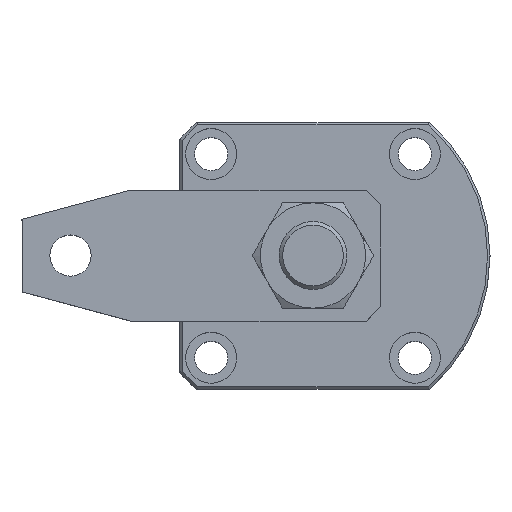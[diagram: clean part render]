
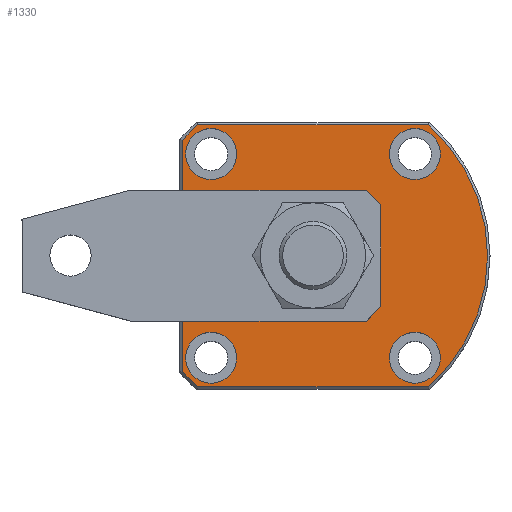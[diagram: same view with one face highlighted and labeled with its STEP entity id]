
A CAD part, top view. The second image highlights one B-rep face of the part: STEP entity #1330.
In plain terms, the highlighted planar face has unit normal (0, 0, 1).
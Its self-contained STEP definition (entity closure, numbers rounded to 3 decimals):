
#75=LINE('',#2429,#123);
#76=LINE('',#2433,#124);
#77=LINE('',#2437,#125);
#123=VECTOR('',#2004,1000.);
#124=VECTOR('',#2007,1000.);
#125=VECTOR('',#2010,1000.);
#199=PLANE('',#1794);
#257=ORIENTED_EDGE('',*,*,#588,.T.);
#258=ORIENTED_EDGE('',*,*,#589,.T.);
#259=ORIENTED_EDGE('',*,*,#590,.T.);
#260=ORIENTED_EDGE('',*,*,#591,.T.);
#261=ORIENTED_EDGE('',*,*,#592,.T.);
#262=ORIENTED_EDGE('',*,*,#593,.T.);
#263=ORIENTED_EDGE('',*,*,#594,.T.);
#264=ORIENTED_EDGE('',*,*,#595,.F.);
#265=ORIENTED_EDGE('',*,*,#596,.F.);
#266=ORIENTED_EDGE('',*,*,#597,.F.);
#267=ORIENTED_EDGE('',*,*,#598,.F.);
#588=EDGE_CURVE('',#756,#756,#880,.T.);
#589=EDGE_CURVE('',#757,#758,#881,.T.);
#590=EDGE_CURVE('',#758,#759,#75,.T.);
#591=EDGE_CURVE('',#759,#760,#882,.T.);
#592=EDGE_CURVE('',#760,#761,#76,.T.);
#593=EDGE_CURVE('',#761,#762,#883,.T.);
#594=EDGE_CURVE('',#762,#757,#77,.T.);
#595=EDGE_CURVE('',#763,#763,#884,.T.);
#596=EDGE_CURVE('',#764,#764,#885,.T.);
#597=EDGE_CURVE('',#765,#765,#886,.T.);
#598=EDGE_CURVE('',#766,#766,#887,.T.);
#756=VERTEX_POINT('',#2424);
#757=VERTEX_POINT('',#2427);
#758=VERTEX_POINT('',#2428);
#759=VERTEX_POINT('',#2430);
#760=VERTEX_POINT('',#2432);
#761=VERTEX_POINT('',#2434);
#762=VERTEX_POINT('',#2436);
#763=VERTEX_POINT('',#2439);
#764=VERTEX_POINT('',#2441);
#765=VERTEX_POINT('',#2443);
#766=VERTEX_POINT('',#2445);
#880=CIRCLE('',#1793,9.);
#881=CIRCLE('',#1795,36.);
#882=CIRCLE('',#1796,36.);
#883=CIRCLE('',#1797,36.);
#884=CIRCLE('',#1798,5.25);
#885=CIRCLE('',#1799,5.25);
#886=CIRCLE('',#1800,5.25);
#887=CIRCLE('',#1801,5.25);
#969=EDGE_LOOP('',(#257));
#970=EDGE_LOOP('',(#258,#259,#260,#261,#262,#263));
#971=EDGE_LOOP('',(#264));
#972=EDGE_LOOP('',(#265));
#973=EDGE_LOOP('',(#266));
#974=EDGE_LOOP('',(#267));
#1139=FACE_BOUND('',#969,.T.);
#1140=FACE_BOUND('',#970,.T.);
#1141=FACE_BOUND('',#971,.T.);
#1142=FACE_BOUND('',#972,.T.);
#1143=FACE_BOUND('',#973,.T.);
#1144=FACE_BOUND('',#974,.T.);
#1330=ADVANCED_FACE('',(#1139,#1140,#1141,#1142,#1143,#1144),#199,.T.);
#1793=AXIS2_PLACEMENT_3D('',#2423,#1998,#1999);
#1794=AXIS2_PLACEMENT_3D('',#2425,#2000,#2001);
#1795=AXIS2_PLACEMENT_3D('',#2426,#2002,#2003);
#1796=AXIS2_PLACEMENT_3D('',#2431,#2005,#2006);
#1797=AXIS2_PLACEMENT_3D('',#2435,#2008,#2009);
#1798=AXIS2_PLACEMENT_3D('',#2438,#2011,#2012);
#1799=AXIS2_PLACEMENT_3D('',#2440,#2013,#2014);
#1800=AXIS2_PLACEMENT_3D('',#2442,#2015,#2016);
#1801=AXIS2_PLACEMENT_3D('',#2444,#2017,#2018);
#1998=DIRECTION('',(0.,0.,-1.));
#1999=DIRECTION('',(0.,-1.,0.));
#2000=DIRECTION('',(0.,0.,1.));
#2001=DIRECTION('',(0.,-1.,0.));
#2002=DIRECTION('',(0.,0.,1.));
#2003=DIRECTION('',(0.,-1.,0.));
#2004=DIRECTION('',(-1.,0.,0.));
#2005=DIRECTION('',(0.,0.,1.));
#2006=DIRECTION('',(0.,-1.,0.));
#2007=DIRECTION('',(0.,-1.,0.));
#2008=DIRECTION('',(0.,0.,1.));
#2009=DIRECTION('',(0.,-1.,0.));
#2010=DIRECTION('',(1.,0.,0.));
#2011=DIRECTION('',(0.,0.,1.));
#2012=DIRECTION('',(1.,0.,0.));
#2013=DIRECTION('',(0.,0.,1.));
#2014=DIRECTION('',(1.,0.,0.));
#2015=DIRECTION('',(0.,0.,1.));
#2016=DIRECTION('',(1.,0.,0.));
#2017=DIRECTION('',(0.,0.,1.));
#2018=DIRECTION('',(1.,0.,0.));
#2423=CARTESIAN_POINT('',(0.,29.5,16.));
#2424=CARTESIAN_POINT('',(0.,20.5,16.));
#2425=CARTESIAN_POINT('',(0.,29.5,16.));
#2426=CARTESIAN_POINT('',(0.,29.5,16.));
#2427=CARTESIAN_POINT('',(23.812,2.5,16.));
#2428=CARTESIAN_POINT('',(23.812,56.5,16.));
#2429=CARTESIAN_POINT('',(0.,56.5,16.));
#2430=CARTESIAN_POINT('',(-23.812,56.5,16.));
#2431=CARTESIAN_POINT('',(0.,29.5,16.));
#2432=CARTESIAN_POINT('',(-27.,53.312,16.));
#2433=CARTESIAN_POINT('',(-27.,29.5,16.));
#2434=CARTESIAN_POINT('',(-27.,5.688,16.));
#2435=CARTESIAN_POINT('',(0.,29.5,16.));
#2436=CARTESIAN_POINT('',(-23.812,2.5,16.));
#2437=CARTESIAN_POINT('',(0.,2.5,16.));
#2438=CARTESIAN_POINT('',(-21.,8.5,16.));
#2439=CARTESIAN_POINT('',(-15.75,8.5,16.));
#2440=CARTESIAN_POINT('',(21.,8.5,16.));
#2441=CARTESIAN_POINT('',(26.25,8.5,16.));
#2442=CARTESIAN_POINT('',(21.,50.5,16.));
#2443=CARTESIAN_POINT('',(26.25,50.5,16.));
#2444=CARTESIAN_POINT('',(-21.,50.5,16.));
#2445=CARTESIAN_POINT('',(-15.75,50.5,16.));
